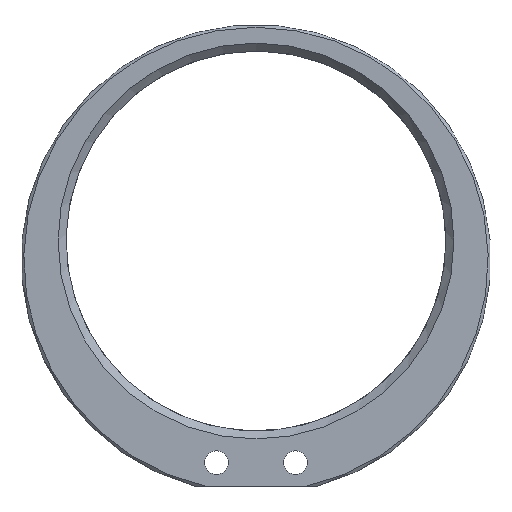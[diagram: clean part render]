
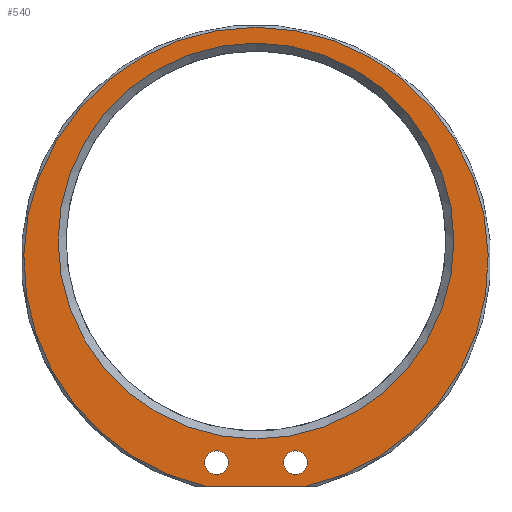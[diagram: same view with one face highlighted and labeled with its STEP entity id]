
A CAD part, left-side view. The second image highlights one B-rep face of the part: STEP entity #540.
In plain terms, the highlighted planar face has unit normal (-1, 0, 0).
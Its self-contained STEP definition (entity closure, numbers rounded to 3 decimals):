
#53=LINE($,#945,#78);
#78=VECTOR($,#740,18.655);
#94=PLANE($,#601);
#111=FACE_BOUND($,#186,.T.);
#112=FACE_BOUND($,#187,.T.);
#113=FACE_BOUND($,#188,.T.);
#114=FACE_BOUND($,#189,.T.);
#186=EDGE_LOOP($,(#461));
#187=EDGE_LOOP($,(#462,#463));
#188=EDGE_LOOP($,(#464));
#189=EDGE_LOOP($,(#465));
#235=CIRCLE($,#597,44.);
#238=CIRCLE($,#602,37.5);
#239=CIRCLE($,#603,2.25);
#240=CIRCLE($,#604,2.25);
#283=VERTEX_POINT($,#931);
#284=VERTEX_POINT($,#935);
#291=VERTEX_POINT($,#960);
#292=VERTEX_POINT($,#962);
#293=VERTEX_POINT($,#964);
#347=EDGE_CURVE($,#283,#284,#235,.T.);
#351=EDGE_CURVE($,#283,#284,#53,.T.);
#357=EDGE_CURVE($,#291,#291,#238,.T.);
#358=EDGE_CURVE($,#292,#292,#239,.T.);
#359=EDGE_CURVE($,#293,#293,#240,.T.);
#461=ORIENTED_EDGE($,*,*,#357,.F.);
#462=ORIENTED_EDGE($,*,*,#347,.F.);
#463=ORIENTED_EDGE($,*,*,#351,.T.);
#464=ORIENTED_EDGE($,*,*,#358,.T.);
#465=ORIENTED_EDGE($,*,*,#359,.T.);
#540=ADVANCED_FACE($,(#111,#112,#113,#114),#94,.F.);
#597=AXIS2_PLACEMENT_3D($,#936,#732,#733);
#601=AXIS2_PLACEMENT_3D($,#959,#744,#745);
#602=AXIS2_PLACEMENT_3D($,#961,#746,#747);
#603=AXIS2_PLACEMENT_3D($,#963,#748,#749);
#604=AXIS2_PLACEMENT_3D($,#965,#750,#751);
#732=DIRECTION('center_axis',(1.,0.,0.));
#733=DIRECTION('ref_axis',(0.,-0.257,0.966));
#740=DIRECTION($,(0.,-1.,0.));
#744=DIRECTION('center_axis',(1.,0.,0.));
#745=DIRECTION('ref_axis',(0.,0.,-1.));
#746=DIRECTION('center_axis',(-1.,0.,0.));
#747=DIRECTION('ref_axis',(0.,0.,-1.));
#748=DIRECTION('center_axis',(1.,0.,0.));
#749=DIRECTION('ref_axis',(0.,0.,-1.));
#750=DIRECTION('center_axis',(1.,0.,0.));
#751=DIRECTION('ref_axis',(0.,0.,-1.));
#931=CARTESIAN_POINT('',(-11.588,-0.336,-43.75));
#935=CARTESIAN_POINT('',(-11.588,-18.991,-43.75));
#936=CARTESIAN_POINT('Origin',(-11.588,-9.664,-0.75));
#945=CARTESIAN_POINT($,(-11.588,1.793,-43.75));
#959=CARTESIAN_POINT('Origin',(-11.588,-9.664,-1.775));
#960=CARTESIAN_POINT('',(-11.588,-9.664,40.25));
#961=CARTESIAN_POINT('Origin',(-11.588,-9.664,2.75));
#962=CARTESIAN_POINT('',(-11.588,-2.164,-37.));
#963=CARTESIAN_POINT('Origin',(-11.588,-2.164,-39.25));
#964=CARTESIAN_POINT('',(-11.588,-17.164,-37.));
#965=CARTESIAN_POINT('Origin',(-11.588,-17.164,-39.25));
